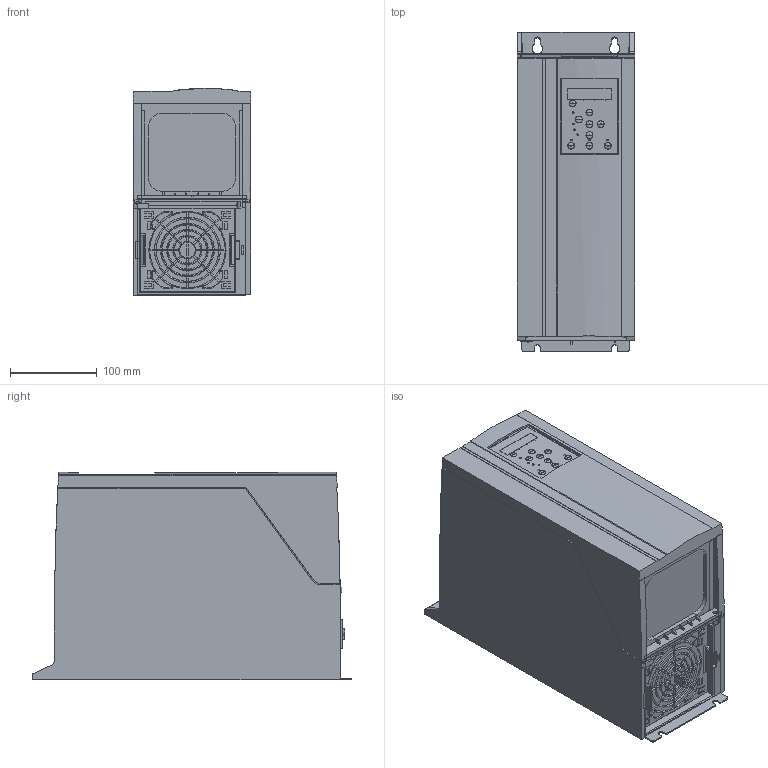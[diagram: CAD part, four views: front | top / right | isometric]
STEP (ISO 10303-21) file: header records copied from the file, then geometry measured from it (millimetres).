
FILE_DESCRIPTION((''),'2;1');
FILE_NAME('I3-IP54_ASM','2013-05-23T',('U243993'),('Danfoss Power Electronics'),'PRO/ENGINEER BY PARAMETRIC TECHNOLOGY CORPORATION, 2011490','PRO/ENGINEER BY PARAMETRIC TECHNOLOGY CORPORATION, 2011490','');
FILE_SCHEMA(('CONFIG_CONTROL_DESIGN', 'GEOMETRIC_VALIDATION_PROPERTIES_MIM'));
Products named in the file (18): 132B4152; 132B4194; 132B4161; 132B4158; 132B4235_ASM; 132B4155; 132B3468; 132B3527_ASM; 132B4253; 132B4296; 132B9105_ASM; I3-WIRE-ENTRY-SKE; 132B4164; INSERT; 132B3532; I3-WIRE-ENTRY-ASSEMBLY_ASM; 132B3534; I3-IP54_ASM
Assembly tree (19 placements, depth 3):
  I3-IP54_ASM
    132B4152
    132B4194
    132B4161
    132B4235_ASM
      132B4158
    132B4155
    132B3527_ASM
      132B3468
    132B4253
    132B9105_ASM
      132B4296
    I3-WIRE-ENTRY-ASSEMBLY_ASM
      I3-WIRE-ENTRY-SKE
      132B4164
      INSERT  x2
      132B3532  x2
    132B3534
Bounding box: 135 x 368 x 238.97 mm (x, y, z)
Volume: 3238810.4 mm3; surface area: 835669.2 mm2
Topology: 15 solids, 25 shells, 4027 faces, 10177 edges, 6349 vertices
Faces by surface type: plane 1344, cylinder 1094, bspline 916, torus 370, extrusion 217, cone 84, sphere 2
Entity records: 141015 total; most frequent: CARTESIAN_POINT 55857, ORIENTED_EDGE 14230, DIRECTION 11364, PRESENTATION_STYLE_ASSIGNMENT 7139, STYLED_ITEM 7132, CURVE_STYLE 7115, EDGE_CURVE 7115, VERTEX_POINT 4507
